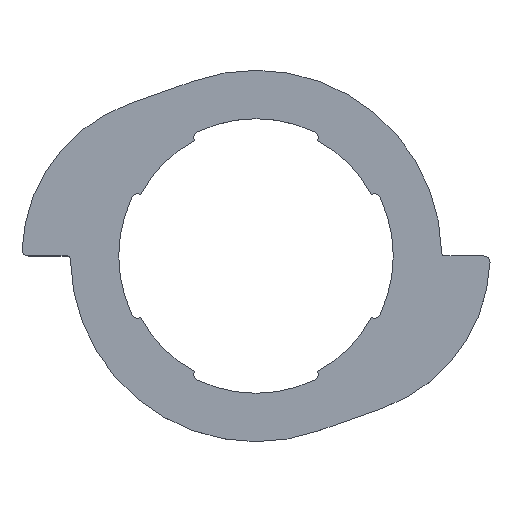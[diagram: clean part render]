
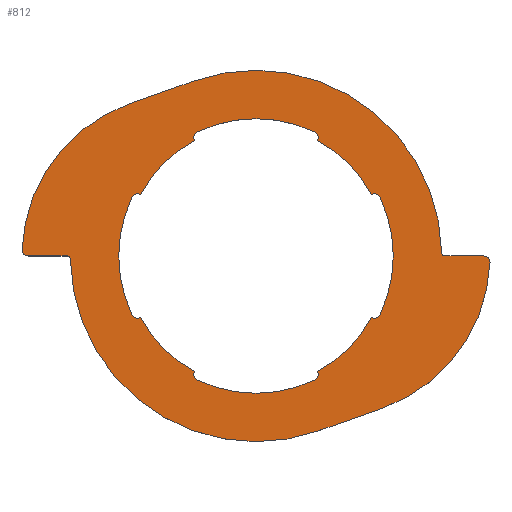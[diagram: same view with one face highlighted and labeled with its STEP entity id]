
A CAD part, top view. The second image highlights one B-rep face of the part: STEP entity #812.
In plain terms, the highlighted planar face has unit normal (0, 0, 1).
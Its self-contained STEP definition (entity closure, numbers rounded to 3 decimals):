
#116=CARTESIAN_POINT('',(58.491,1.,1.5));
#117=DIRECTION('',(0.,0.,-1.));
#118=DIRECTION('',(0.,-1.,0.));
#119=AXIS2_PLACEMENT_3D('',#116,#117,#118);
#150=CARTESIAN_POINT('',(-58.491,-1.,1.5));
#151=DIRECTION('',(0.,0.,-1.));
#152=DIRECTION('',(0.,1.,0.));
#153=AXIS2_PLACEMENT_3D('',#150,#151,#152);
#163=CARTESIAN_POINT('',(-22.5,0.,1.5));
#164=DIRECTION('',(0.,0.,1.));
#165=DIRECTION('',(-0.333,0.943,0.));
#166=AXIS2_PLACEMENT_3D('',#163,#164,#165);
#168=DIRECTION('',(-0.943,-0.333,0.));
#169=VECTOR('',#168,21.213);
#170=CARTESIAN_POINT('',(-19.167,54.212,1.5));
#171=LINE('',#170,#169);
#172=CARTESIAN_POINT('',(0.,0.,1.5));
#173=DIRECTION('',(0.,0.,1.));
#174=DIRECTION('',(1.,0.017,0.));
#175=AXIS2_PLACEMENT_3D('',#172,#173,#174);
#177=DIRECTION('',(-1.,0.,0.));
#178=VECTOR('',#177,11.967);
#179=CARTESIAN_POINT('',(70.458,0.,1.5));
#180=LINE('',#179,#178);
#181=CARTESIAN_POINT('',(70.458,-2.,1.5));
#182=DIRECTION('',(0.,0.,1.));
#183=DIRECTION('',(0.999,-0.042,0.));
#184=AXIS2_PLACEMENT_3D('',#181,#182,#183);
#186=CARTESIAN_POINT('',(22.5,0.,1.5));
#187=DIRECTION('',(0.,0.,1.));
#188=DIRECTION('',(0.333,-0.943,0.));
#189=AXIS2_PLACEMENT_3D('',#186,#187,#188);
#191=DIRECTION('',(0.943,0.333,0.));
#192=VECTOR('',#191,21.213);
#193=CARTESIAN_POINT('',(19.167,-54.212,1.5));
#194=LINE('',#193,#192);
#195=CARTESIAN_POINT('',(0.,0.,1.5));
#196=DIRECTION('',(0.,0.,1.));
#197=DIRECTION('',(-1.,-0.017,0.));
#198=AXIS2_PLACEMENT_3D('',#195,#196,#197);
#200=DIRECTION('',(1.,0.,0.));
#201=VECTOR('',#200,11.967);
#202=CARTESIAN_POINT('',(-70.458,0.,1.5));
#203=LINE('',#202,#201);
#204=CARTESIAN_POINT('',(-70.458,2.,1.5));
#205=DIRECTION('',(0.,0.,1.));
#206=DIRECTION('',(-0.999,0.042,0.));
#207=AXIS2_PLACEMENT_3D('',#204,#205,#206);
#209=CARTESIAN_POINT('',(0.,0.,1.5));
#210=DIRECTION('',(0.,0.,1.));
#211=DIRECTION('',(0.426,0.905,0.));
#212=AXIS2_PLACEMENT_3D('',#209,#210,#211);
#214=CARTESIAN_POINT('',(0.,0.,1.5));
#215=DIRECTION('',(0.,0.,1.));
#216=DIRECTION('',(-0.905,0.426,0.));
#217=AXIS2_PLACEMENT_3D('',#214,#215,#216);
#219=CARTESIAN_POINT('',(0.,0.,1.5));
#220=DIRECTION('',(0.,0.,1.));
#221=DIRECTION('',(-0.426,-0.905,0.));
#222=AXIS2_PLACEMENT_3D('',#219,#220,#221);
#224=CARTESIAN_POINT('',(0.,0.,1.5));
#225=DIRECTION('',(0.,0.,1.));
#226=DIRECTION('',(0.905,-0.426,0.));
#227=AXIS2_PLACEMENT_3D('',#224,#225,#226);
#242=CARTESIAN_POINT('',(0.,0.,1.5));
#243=DIRECTION('',(0.,0.,-1.));
#244=DIRECTION('',(-0.882,0.471,0.));
#245=AXIS2_PLACEMENT_3D('',#242,#243,#244);
#251=CARTESIAN_POINT('',(0.,0.,1.5));
#252=DIRECTION('',(0.,0.,-1.));
#253=DIRECTION('',(0.471,0.882,0.));
#254=AXIS2_PLACEMENT_3D('',#251,#252,#253);
#269=CARTESIAN_POINT('',(0.,0.,1.5));
#270=DIRECTION('',(0.,0.,-1.));
#271=DIRECTION('',(0.882,-0.471,0.));
#272=AXIS2_PLACEMENT_3D('',#269,#270,#271);
#287=CARTESIAN_POINT('',(0.,0.,1.5));
#288=DIRECTION('',(0.,0.,-1.));
#289=DIRECTION('',(-0.471,-0.882,0.));
#290=AXIS2_PLACEMENT_3D('',#287,#288,#289);
#301=CARTESIAN_POINT('',(-17.271,36.633,1.5));
#302=DIRECTION('',(0.,0.,-1.));
#303=DIRECTION('',(-0.894,-0.449,0.));
#304=AXIS2_PLACEMENT_3D('',#301,#302,#303);
#319=CARTESIAN_POINT('',(17.271,36.633,1.5));
#320=DIRECTION('',(0.,0.,-1.));
#321=DIRECTION('',(0.426,0.905,0.));
#322=AXIS2_PLACEMENT_3D('',#319,#320,#321);
#329=CARTESIAN_POINT('',(-36.633,17.271,1.5));
#330=DIRECTION('',(0.,0.,-1.));
#331=DIRECTION('',(-0.905,0.426,0.));
#332=AXIS2_PLACEMENT_3D('',#329,#330,#331);
#347=CARTESIAN_POINT('',(-36.633,-17.271,1.5));
#348=DIRECTION('',(0.,0.,-1.));
#349=DIRECTION('',(0.449,-0.894,0.));
#350=AXIS2_PLACEMENT_3D('',#347,#348,#349);
#357=CARTESIAN_POINT('',(36.633,17.271,1.5));
#358=DIRECTION('',(0.,0.,-1.));
#359=DIRECTION('',(-0.449,0.894,0.));
#360=AXIS2_PLACEMENT_3D('',#357,#358,#359);
#375=CARTESIAN_POINT('',(36.633,-17.271,1.5));
#376=DIRECTION('',(0.,0.,-1.));
#377=DIRECTION('',(0.905,-0.426,0.));
#378=AXIS2_PLACEMENT_3D('',#375,#376,#377);
#385=CARTESIAN_POINT('',(17.271,-36.633,1.5));
#386=DIRECTION('',(0.,0.,-1.));
#387=DIRECTION('',(0.894,0.449,0.));
#388=AXIS2_PLACEMENT_3D('',#385,#386,#387);
#403=CARTESIAN_POINT('',(-17.271,-36.633,1.5));
#404=DIRECTION('',(0.,0.,-1.));
#405=DIRECTION('',(-0.426,-0.905,0.));
#406=AXIS2_PLACEMENT_3D('',#403,#404,#405);
#429=CARTESIAN_POINT('',(57.492,0.983,1.5));
#430=CARTESIAN_POINT('',(-19.167,54.212,1.5));
#431=VERTEX_POINT('',#429);
#432=VERTEX_POINT('',#430);
#433=CARTESIAN_POINT('',(-39.167,47.14,1.5));
#434=CARTESIAN_POINT('',(-72.457,2.083,1.5));
#435=VERTEX_POINT('',#433);
#436=VERTEX_POINT('',#434);
#437=CARTESIAN_POINT('',(-57.492,-0.983,1.5));
#438=CARTESIAN_POINT('',(19.167,-54.212,1.5));
#439=VERTEX_POINT('',#437);
#440=VERTEX_POINT('',#438);
#441=CARTESIAN_POINT('',(39.167,-47.14,1.5));
#442=CARTESIAN_POINT('',(72.457,-2.083,1.5));
#443=VERTEX_POINT('',#441);
#444=VERTEX_POINT('',#442);
#446=CARTESIAN_POINT('',(-58.491,0.,1.5));
#448=VERTEX_POINT('',#446);
#450=CARTESIAN_POINT('',(58.491,0.,1.5));
#452=VERTEX_POINT('',#450);
#455=CARTESIAN_POINT('',(-70.458,0.,1.5));
#456=VERTEX_POINT('',#455);
#459=CARTESIAN_POINT('',(70.458,0.,1.5));
#460=VERTEX_POINT('',#459);
#461=CARTESIAN_POINT('',(-19.059,35.735,1.5));
#463=VERTEX_POINT('',#461);
#465=CARTESIAN_POINT('',(-18.124,38.442,1.5));
#467=VERTEX_POINT('',#465);
#469=CARTESIAN_POINT('',(18.124,38.442,1.5));
#471=VERTEX_POINT('',#469);
#473=CARTESIAN_POINT('',(19.059,35.735,1.5));
#475=VERTEX_POINT('',#473);
#477=CARTESIAN_POINT('',(35.735,19.059,1.5));
#479=VERTEX_POINT('',#477);
#481=CARTESIAN_POINT('',(38.442,18.124,1.5));
#483=VERTEX_POINT('',#481);
#485=CARTESIAN_POINT('',(38.442,-18.124,1.5));
#487=VERTEX_POINT('',#485);
#489=CARTESIAN_POINT('',(35.735,-19.059,1.5));
#491=VERTEX_POINT('',#489);
#493=CARTESIAN_POINT('',(19.059,-35.735,1.5));
#495=VERTEX_POINT('',#493);
#497=CARTESIAN_POINT('',(18.124,-38.442,1.5));
#499=VERTEX_POINT('',#497);
#501=CARTESIAN_POINT('',(-18.124,-38.442,1.5));
#503=VERTEX_POINT('',#501);
#505=CARTESIAN_POINT('',(-19.059,-35.735,1.5));
#507=VERTEX_POINT('',#505);
#509=CARTESIAN_POINT('',(-35.735,-19.059,1.5));
#511=VERTEX_POINT('',#509);
#513=CARTESIAN_POINT('',(-38.442,-18.124,1.5));
#515=VERTEX_POINT('',#513);
#517=CARTESIAN_POINT('',(-38.442,18.124,1.5));
#519=VERTEX_POINT('',#517);
#521=CARTESIAN_POINT('',(-35.735,19.059,1.5));
#523=VERTEX_POINT('',#521);
#759=CARTESIAN_POINT('',(0.,0.,1.5));
#760=DIRECTION('',(0.,0.,1.));
#761=DIRECTION('',(1.,0.,0.));
#762=AXIS2_PLACEMENT_3D('',#759,#760,#761);
#763=PLANE('',#762);
#764=ORIENTED_EDGE('',*,*,#599,.F.);
#765=ORIENTED_EDGE('',*,*,#614,.F.);
#766=ORIENTED_EDGE('',*,*,#628,.F.);
#767=ORIENTED_EDGE('',*,*,#643,.F.);
#768=ORIENTED_EDGE('',*,*,#655,.F.);
#769=ORIENTED_EDGE('',*,*,#670,.F.);
#770=ORIENTED_EDGE('',*,*,#684,.F.);
#771=ORIENTED_EDGE('',*,*,#698,.F.);
#772=ORIENTED_EDGE('',*,*,#712,.F.);
#773=ORIENTED_EDGE('',*,*,#727,.F.);
#774=ORIENTED_EDGE('',*,*,#739,.F.);
#775=ORIENTED_EDGE('',*,*,#753,.F.);
#776=EDGE_LOOP('',(#764,#765,#766,#767,#768,#769,#770,#771,#772,#773,#774,
#775));
#777=FACE_OUTER_BOUND('',#776,.F.);
#779=ORIENTED_EDGE('',*,*,#778,.F.);
#781=ORIENTED_EDGE('',*,*,#780,.F.);
#783=ORIENTED_EDGE('',*,*,#782,.T.);
#785=ORIENTED_EDGE('',*,*,#784,.F.);
#787=ORIENTED_EDGE('',*,*,#786,.F.);
#789=ORIENTED_EDGE('',*,*,#788,.F.);
#791=ORIENTED_EDGE('',*,*,#790,.T.);
#793=ORIENTED_EDGE('',*,*,#792,.F.);
#795=ORIENTED_EDGE('',*,*,#794,.F.);
#797=ORIENTED_EDGE('',*,*,#796,.F.);
#799=ORIENTED_EDGE('',*,*,#798,.T.);
#801=ORIENTED_EDGE('',*,*,#800,.F.);
#803=ORIENTED_EDGE('',*,*,#802,.F.);
#805=ORIENTED_EDGE('',*,*,#804,.F.);
#807=ORIENTED_EDGE('',*,*,#806,.T.);
#809=ORIENTED_EDGE('',*,*,#808,.F.);
#810=EDGE_LOOP('',(#779,#781,#783,#785,#787,#789,#791,#793,#795,#797,#799,#801,
#803,#805,#807,#809));
#811=FACE_BOUND('',#810,.F.);
#120=CIRCLE('',#119,1.);
#154=CIRCLE('',#153,1.);
#167=CIRCLE('',#166,50.);
#176=CIRCLE('',#175,57.5);
#185=CIRCLE('',#184,2.);
#190=CIRCLE('',#189,50.);
#199=CIRCLE('',#198,57.5);
#208=CIRCLE('',#207,2.);
#213=CIRCLE('',#212,42.5);
#218=CIRCLE('',#217,42.5);
#223=CIRCLE('',#222,42.5);
#228=CIRCLE('',#227,42.5);
#246=CIRCLE('',#245,40.5);
#255=CIRCLE('',#254,40.5);
#273=CIRCLE('',#272,40.5);
#291=CIRCLE('',#290,40.5);
#305=CIRCLE('',#304,2.);
#323=CIRCLE('',#322,2.);
#333=CIRCLE('',#332,2.);
#351=CIRCLE('',#350,2.);
#361=CIRCLE('',#360,2.);
#379=CIRCLE('',#378,2.);
#389=CIRCLE('',#388,2.);
#407=CIRCLE('',#406,2.);
#599=EDGE_CURVE('',#435,#436,#167,.T.);
#614=EDGE_CURVE('',#432,#435,#171,.T.);
#628=EDGE_CURVE('',#431,#432,#176,.T.);
#643=EDGE_CURVE('',#452,#431,#120,.T.);
#655=EDGE_CURVE('',#460,#452,#180,.T.);
#670=EDGE_CURVE('',#444,#460,#185,.T.);
#684=EDGE_CURVE('',#443,#444,#190,.T.);
#698=EDGE_CURVE('',#440,#443,#194,.T.);
#712=EDGE_CURVE('',#439,#440,#199,.T.);
#727=EDGE_CURVE('',#448,#439,#154,.T.);
#739=EDGE_CURVE('',#456,#448,#203,.T.);
#753=EDGE_CURVE('',#436,#456,#208,.T.);
#778=EDGE_CURVE('',#475,#479,#255,.T.);
#780=EDGE_CURVE('',#471,#475,#323,.T.);
#782=EDGE_CURVE('',#471,#467,#213,.T.);
#784=EDGE_CURVE('',#463,#467,#305,.T.);
#786=EDGE_CURVE('',#523,#463,#246,.T.);
#788=EDGE_CURVE('',#519,#523,#333,.T.);
#790=EDGE_CURVE('',#519,#515,#218,.T.);
#792=EDGE_CURVE('',#511,#515,#351,.T.);
#794=EDGE_CURVE('',#507,#511,#291,.T.);
#796=EDGE_CURVE('',#503,#507,#407,.T.);
#798=EDGE_CURVE('',#503,#499,#223,.T.);
#800=EDGE_CURVE('',#495,#499,#389,.T.);
#802=EDGE_CURVE('',#491,#495,#273,.T.);
#804=EDGE_CURVE('',#487,#491,#379,.T.);
#806=EDGE_CURVE('',#487,#483,#228,.T.);
#808=EDGE_CURVE('',#479,#483,#361,.T.);
#812=ADVANCED_FACE('',(#777,#811),#763,.T.);
